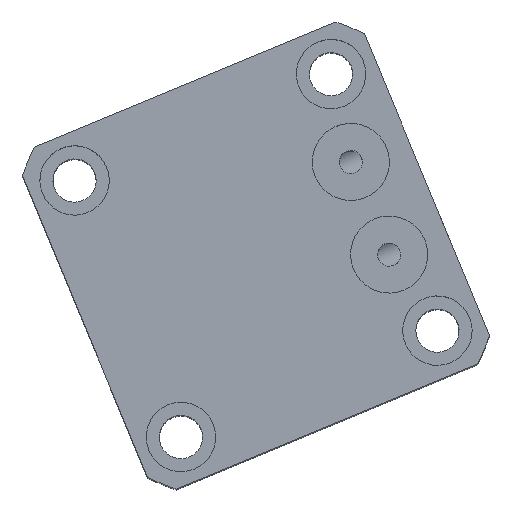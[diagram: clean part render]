
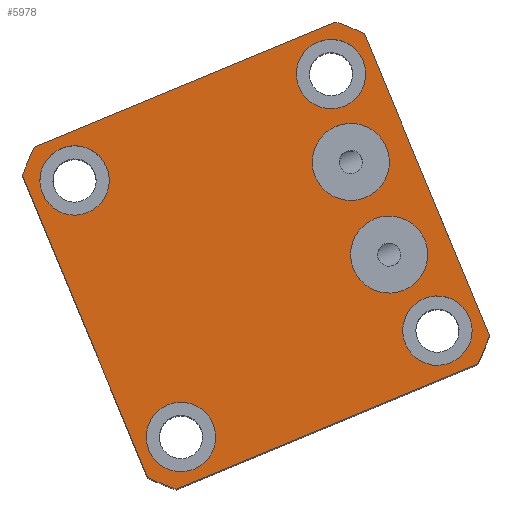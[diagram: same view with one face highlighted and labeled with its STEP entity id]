
A CAD part, top view. The second image highlights one B-rep face of the part: STEP entity #5978.
In plain terms, the highlighted planar face has unit normal (0, 0, 1).
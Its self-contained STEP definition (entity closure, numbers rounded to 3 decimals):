
#2913=LINE('',#16289,#3796);
#2917=LINE('',#16649,#3800);
#2921=LINE('',#16658,#3804);
#2925=LINE('',#16667,#3808);
#3796=VECTOR('',#12276,1.);
#3800=VECTOR('',#12394,1.);
#3804=VECTOR('',#12400,1.);
#3808=VECTOR('',#12406,1.);
#4804=PLANE('',#11863);
#5978=ADVANCED_FACE('',(#6492,#6493,#6494,#6495,#6496,#6497,#6498),#4804,
 .F.);
#6492=FACE_BOUND('',#6673,.T.);
#6493=FACE_BOUND('',#6674,.T.);
#6494=FACE_BOUND('',#6675,.T.);
#6495=FACE_BOUND('',#6676,.T.);
#6496=FACE_BOUND('',#6677,.T.);
#6497=FACE_BOUND('',#6678,.T.);
#6498=FACE_BOUND('',#6679,.T.);
#6673=EDGE_LOOP('',(#7316));
#6674=EDGE_LOOP('',(#7317));
#6675=EDGE_LOOP('',(#7318));
#6676=EDGE_LOOP('',(#7319));
#6677=EDGE_LOOP('',(#7320));
#6678=EDGE_LOOP('',(#7321));
#6679=EDGE_LOOP('',(#7322,#7323,#7324,#7325,#7326,#7327,#7328,#7329));
#7316=ORIENTED_EDGE('',*,*,#10503,.F.);
#7317=ORIENTED_EDGE('',*,*,#10505,.F.);
#7318=ORIENTED_EDGE('',*,*,#10515,.F.);
#7319=ORIENTED_EDGE('',*,*,#10517,.F.);
#7320=ORIENTED_EDGE('',*,*,#10519,.F.);
#7321=ORIENTED_EDGE('',*,*,#10521,.F.);
#7322=ORIENTED_EDGE('',*,*,#10555,.F.);
#7323=ORIENTED_EDGE('',*,*,#10540,.F.);
#7324=ORIENTED_EDGE('',*,*,#10556,.F.);
#7325=ORIENTED_EDGE('',*,*,#10548,.F.);
#7326=ORIENTED_EDGE('',*,*,#10557,.F.);
#7327=ORIENTED_EDGE('',*,*,#10544,.F.);
#7328=ORIENTED_EDGE('',*,*,#10558,.F.);
#7329=ORIENTED_EDGE('',*,*,#10496,.F.);
#9648=VERTEX_POINT('',#16287);
#9650=VERTEX_POINT('',#16290);
#9656=VERTEX_POINT('',#16438);
#9658=VERTEX_POINT('',#16443);
#9667=VERTEX_POINT('',#16587);
#9669=VERTEX_POINT('',#16592);
#9671=VERTEX_POINT('',#16597);
#9673=VERTEX_POINT('',#16602);
#9691=VERTEX_POINT('',#16647);
#9693=VERTEX_POINT('',#16650);
#9695=VERTEX_POINT('',#16656);
#9697=VERTEX_POINT('',#16659);
#9699=VERTEX_POINT('',#16665);
#9701=VERTEX_POINT('',#16668);
#10496=EDGE_CURVE('',#9648,#9650,#2913,.T.);
#10503=EDGE_CURVE('',#9656,#9656,#11696,.T.);
#10505=EDGE_CURVE('',#9658,#9658,#11698,.T.);
#10515=EDGE_CURVE('',#9667,#9667,#11706,.T.);
#10517=EDGE_CURVE('',#9669,#9669,#11708,.T.);
#10519=EDGE_CURVE('',#9671,#9671,#11710,.T.);
#10521=EDGE_CURVE('',#9673,#9673,#11712,.T.);
#10540=EDGE_CURVE('',#9691,#9693,#2917,.T.);
#10544=EDGE_CURVE('',#9695,#9697,#2921,.T.);
#10548=EDGE_CURVE('',#9699,#9701,#2925,.T.);
#10555=EDGE_CURVE('',#9693,#9648,#11734,.T.);
#10556=EDGE_CURVE('',#9701,#9691,#11735,.T.);
#10557=EDGE_CURVE('',#9697,#9699,#11736,.T.);
#10558=EDGE_CURVE('',#9650,#9695,#11737,.T.);
#11696=CIRCLE('',#11799,5.);
#11698=CIRCLE('',#11802,5.);
#11706=CIRCLE('',#11815,4.5);
#11708=CIRCLE('',#11818,4.5);
#11710=CIRCLE('',#11821,4.5);
#11712=CIRCLE('',#11824,4.5);
#11734=CIRCLE('',#11859,32.);
#11735=CIRCLE('',#11860,32.);
#11736=CIRCLE('',#11861,32.);
#11737=CIRCLE('',#11862,32.);
#11799=AXIS2_PLACEMENT_3D('',#16437,#12289,#12290);
#11802=AXIS2_PLACEMENT_3D('',#16442,#12295,#12296);
#11815=AXIS2_PLACEMENT_3D('',#16586,#12321,#12322);
#11818=AXIS2_PLACEMENT_3D('',#16591,#12327,#12328);
#11821=AXIS2_PLACEMENT_3D('',#16596,#12333,#12334);
#11824=AXIS2_PLACEMENT_3D('',#16601,#12339,#12340);
#11859=AXIS2_PLACEMENT_3D('',#16678,#12421,#12422);
#11860=AXIS2_PLACEMENT_3D('',#16679,#12423,#12424);
#11861=AXIS2_PLACEMENT_3D('',#16680,#12425,#12426);
#11862=AXIS2_PLACEMENT_3D('',#16681,#12427,#12428);
#11863=AXIS2_PLACEMENT_3D('',#16682,#12429,#12430);
#12276=DIRECTION('',(0.924,0.383,0.));
#12289=DIRECTION('',(0.,0.,1.));
#12290=DIRECTION('',(0.924,0.383,0.));
#12295=DIRECTION('',(0.,0.,1.));
#12296=DIRECTION('',(0.924,0.383,0.));
#12321=DIRECTION('',(0.,0.,1.));
#12322=DIRECTION('',(0.924,0.383,0.));
#12327=DIRECTION('',(0.,0.,1.));
#12328=DIRECTION('',(0.924,0.383,0.));
#12333=DIRECTION('',(0.,0.,1.));
#12334=DIRECTION('',(0.924,0.383,0.));
#12339=DIRECTION('',(0.,0.,1.));
#12340=DIRECTION('',(0.924,0.383,0.));
#12394=DIRECTION('',(-0.383,0.924,0.));
#12400=DIRECTION('',(0.383,-0.924,0.));
#12406=DIRECTION('',(-0.924,-0.383,0.));
#12421=DIRECTION('',(0.,0.,-1.));
#12422=DIRECTION('',(-0.924,-0.383,0.));
#12423=DIRECTION('',(0.,0.,-1.));
#12424=DIRECTION('',(-0.924,-0.383,0.));
#12425=DIRECTION('',(0.,0.,-1.));
#12426=DIRECTION('',(-0.924,-0.383,0.));
#12427=DIRECTION('',(0.,0.,-1.));
#12428=DIRECTION('',(-0.924,-0.383,0.));
#12429=DIRECTION('',(0.,0.,-1.));
#12430=DIRECTION('',(0.924,0.383,0.));
#16287=CARTESIAN_POINT('',(-93.536,52.59,59.891));
#16289=CARTESIAN_POINT('',(-51.815,69.891,59.891));
#16290=CARTESIAN_POINT('',(-54.433,68.805,59.891));
#16437=CARTESIAN_POINT('',(-47.522,38.653,59.891));
#16438=CARTESIAN_POINT('',(-42.903,40.568,59.891));
#16442=CARTESIAN_POINT('',(-52.502,50.661,59.891));
#16443=CARTESIAN_POINT('',(-47.883,52.576,59.891));
#16586=CARTESIAN_POINT('',(-74.524,15.006,59.891));
#16587=CARTESIAN_POINT('',(-70.367,16.73,59.891));
#16591=CARTESIAN_POINT('',(-41.27,28.796,59.891));
#16592=CARTESIAN_POINT('',(-37.113,30.52,59.891));
#16596=CARTESIAN_POINT('',(-55.059,62.05,59.891));
#16597=CARTESIAN_POINT('',(-50.903,63.774,59.891));
#16601=CARTESIAN_POINT('',(-88.314,48.26,59.891));
#16602=CARTESIAN_POINT('',(-84.157,49.984,59.891));
#16647=CARTESIAN_POINT('',(-78.853,9.783,59.891));
#16649=CARTESIAN_POINT('',(-96.154,51.504,59.891));
#16650=CARTESIAN_POINT('',(-95.069,48.887,59.891));
#16656=CARTESIAN_POINT('',(-50.73,67.273,59.891));
#16658=CARTESIAN_POINT('',(-51.815,69.891,59.891));
#16659=CARTESIAN_POINT('',(-34.514,28.17,59.891));
#16665=CARTESIAN_POINT('',(-36.047,24.466,59.891));
#16667=CARTESIAN_POINT('',(-33.429,25.552,59.891));
#16668=CARTESIAN_POINT('',(-75.15,8.251,59.891));
#16678=CARTESIAN_POINT('',(-64.792,38.528,59.891));
#16679=CARTESIAN_POINT('',(-64.792,38.528,59.891));
#16680=CARTESIAN_POINT('',(-64.792,38.528,59.891));
#16681=CARTESIAN_POINT('',(-64.792,38.528,59.891));
#16682=CARTESIAN_POINT('',(-64.792,38.528,59.891));
